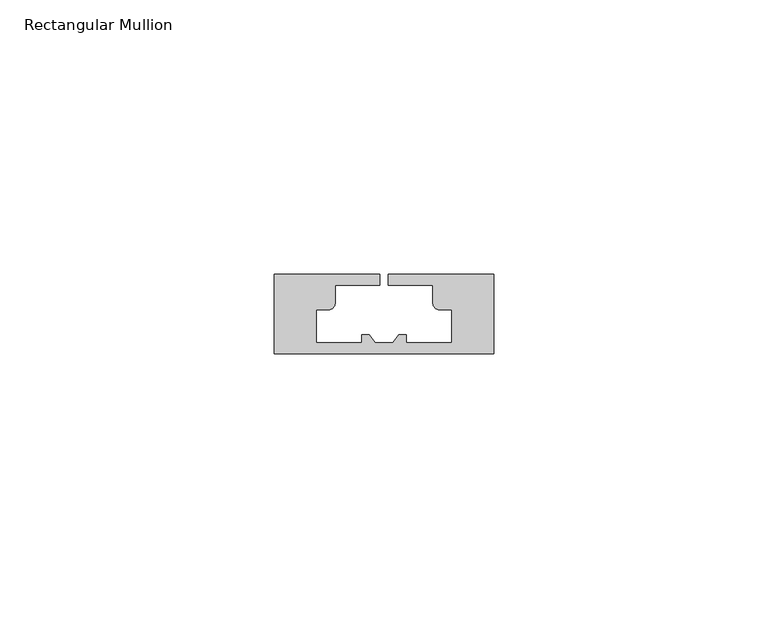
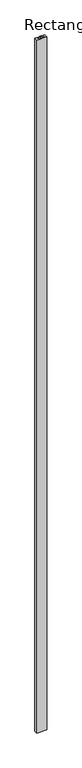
"""IFC4 building model written with IfcOpenShell, lengths in millimetres: member geometry, Rectangular Mullion : NLRS_21_CWM_drager SD.014 - rechts_Storax."""

from ifc_helpers import new_model, si_unit, point, frame, frame_2d, origin, place, context, project, spatial, polyline, circle_curve, trimmed, segment, composite_curve, outline, extrude, source, transform, mapped, element, save


def rectangular_mullion_0fd695e7(model_context):
    return source(origin(), model_context, "Body", "SweptSolid", [
        extrude(outline(composite_curve([segment(polyline([(-50.0, -1.0), (-50.0, -15.5), (-90.0, -15.5), (-90.0, -1.0), (-70.7528633, -1.0), (-70.7528633, -3.0), (-78.9220615, -3.0), (-78.9220615, -6.2788187)]), True, "CONTINUOUS"), segment(trimmed(circle_curve(frame_2d((-80.1231703, -6.2788187)), 1.2011087), [point((-78.9220615, -6.2788187))], [point((-80.1231703, -7.4799274))], False, "CARTESIAN"), True, "CONTINUOUS"), segment(polyline([(-80.1231703, -7.4799274), (-82.3724438, -7.4799274), (-82.3724438, -13.5), (-74.0479621, -13.5), (-74.0479621, -12.0), (-72.694768, -12.0), (-71.6049542, -13.5), (-68.3950458, -13.5), (-67.305232, -12.0), (-65.9520379, -12.0), (-65.9520379, -13.5), (-57.6275562, -13.5), (-57.6275562, -7.4799274), (-59.8768297, -7.4799274)]), True, "CONTINUOUS"), segment(trimmed(circle_curve(frame_2d((-59.8768297, -6.2788187)), 1.2011087), [point((-59.8768297, -7.4799274))], [point((-61.0779385, -6.2788187))], False, "CARTESIAN"), True, "CONTINUOUS"), segment(polyline([(-61.0779385, -6.2788187), (-61.0779385, -3.0), (-69.2471367, -3.0), (-69.2471367, -1.0), (-50.0, -1.0)]), True, "CONTINUOUS")], self_intersect=False)), frame((0.0, 0.0, -3000.0), z_axis=(0.0, 0.0, 1.0), x_axis=(1.0, 0.0, 0.0)), (0.0, 0.0, 1.0), 3000.0),
    ])


if __name__ == "__main__":
    model = new_model("IFC4")
    model_context = context("Model", 3, world=origin())
    ifc_project = project(units=[si_unit("LENGTHUNIT", "METRE", prefix="MILLI")], contexts=[model_context])
    site = spatial("IfcSite", under=ifc_project)
    building = spatial("IfcBuilding", under=site)
    placement = place(None, origin())
    rectangular_mullion_shape = rectangular_mullion_0fd695e7(model_context)
    element("IfcMember", 1, ObjectType="Rectangular Mullion : NLRS_21_CWM_drager SD.014 - rechts_Storax", at=placement, inside=building, context=model_context, shape_type="MappedRepresentation", body=[
        mapped(rectangular_mullion_shape, transform((0.0, 0.0, 0.0), x_axis=(1.0, 0.0, 0.0), y_axis=(0.0, 1.0, 0.0), z_axis=(0.0, 0.0, 1.0))),
    ])
    save(model, "model.ifc")
